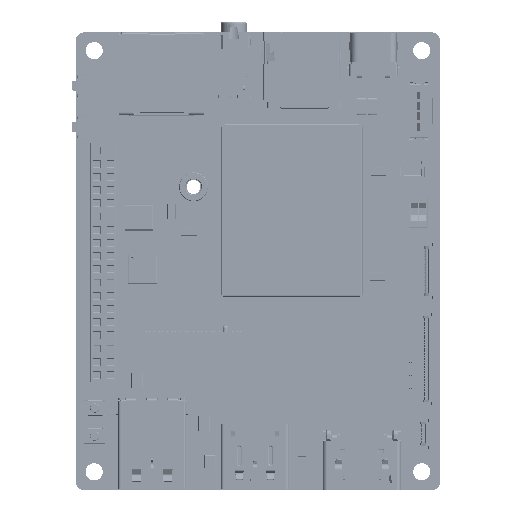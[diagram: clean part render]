
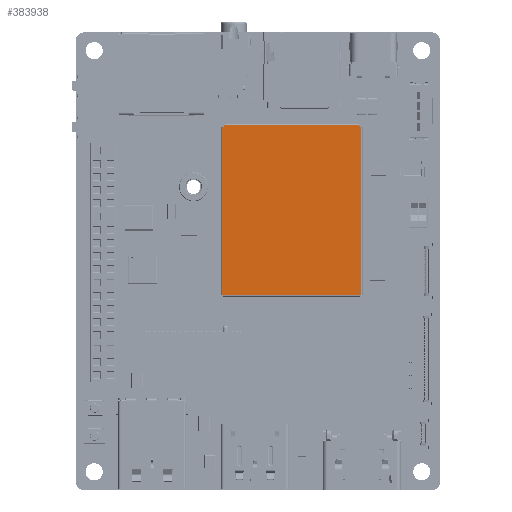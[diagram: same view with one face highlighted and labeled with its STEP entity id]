
A CAD part, top view. The second image highlights one B-rep face of the part: STEP entity #383938.
In plain terms, the highlighted planar face has unit normal (0, 0, 1).
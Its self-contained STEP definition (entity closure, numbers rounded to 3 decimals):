
#18349=FACE_OUTER_BOUND('',#38772,.T.);
#38772=EDGE_LOOP('',(#303291,#303292,#303293,#303294,#303295,#303296,#303297,
#303298));
#73673=LINE('',#601257,#118880);
#73674=LINE('',#601261,#118881);
#73675=LINE('',#601264,#118882);
#73676=LINE('',#601266,#118883);
#118880=VECTOR('',#478375,10.);
#118881=VECTOR('',#478378,10.);
#118882=VECTOR('',#478381,10.);
#118883=VECTOR('',#478382,10.);
#145314=CIRCLE('',#409176,0.25);
#145315=CIRCLE('',#409178,0.5);
#145316=CIRCLE('',#409179,0.5);
#145317=CIRCLE('',#409180,0.25);
#170608=VERTEX_POINT('',#601233);
#170609=VERTEX_POINT('',#601244);
#170610=VERTEX_POINT('',#601255);
#170611=VERTEX_POINT('',#601256);
#170612=VERTEX_POINT('',#601258);
#170613=VERTEX_POINT('',#601260);
#170614=VERTEX_POINT('',#601262);
#170615=VERTEX_POINT('',#601265);
#217930=EDGE_CURVE('',#170609,#170608,#145314,.T.);
#217932=EDGE_CURVE('',#170610,#170611,#73673,.T.);
#217933=EDGE_CURVE('',#170611,#170612,#145315,.T.);
#217934=EDGE_CURVE('',#170612,#170613,#73674,.T.);
#217935=EDGE_CURVE('',#170613,#170614,#145316,.T.);
#217936=EDGE_CURVE('',#170614,#170609,#73675,.T.);
#217937=EDGE_CURVE('',#170608,#170615,#73676,.T.);
#217938=EDGE_CURVE('',#170615,#170610,#145317,.T.);
#303291=ORIENTED_EDGE('',*,*,#217932,.T.);
#303292=ORIENTED_EDGE('',*,*,#217933,.T.);
#303293=ORIENTED_EDGE('',*,*,#217934,.T.);
#303294=ORIENTED_EDGE('',*,*,#217935,.T.);
#303295=ORIENTED_EDGE('',*,*,#217936,.T.);
#303296=ORIENTED_EDGE('',*,*,#217930,.T.);
#303297=ORIENTED_EDGE('',*,*,#217937,.T.);
#303298=ORIENTED_EDGE('',*,*,#217938,.T.);
#367327=PLANE('',#409177);
#383938=ADVANCED_FACE('',(#18349),#367327,.T.);
#409176=AXIS2_PLACEMENT_3D('',#601245,#478371,#478372);
#409177=AXIS2_PLACEMENT_3D('',#601254,#478373,#478374);
#409178=AXIS2_PLACEMENT_3D('',#601259,#478376,#478377);
#409179=AXIS2_PLACEMENT_3D('',#601263,#478379,#478380);
#409180=AXIS2_PLACEMENT_3D('',#601267,#478383,#478384);
#478371=DIRECTION('center_axis',(0.,0.,-1.));
#478372=DIRECTION('ref_axis',(0.4,0.917,0.));
#478373=DIRECTION('center_axis',(0.,0.,1.));
#478374=DIRECTION('ref_axis',(-1.,0.,0.));
#478375=DIRECTION('',(0.,1.,0.));
#478376=DIRECTION('center_axis',(0.,0.,
-1.));
#478377=DIRECTION('ref_axis',(-0.2,-0.98,0.));
#478378=DIRECTION('',(-1.,0.,0.));
#478379=DIRECTION('center_axis',(0.,0.,
-1.));
#478380=DIRECTION('ref_axis',(0.98,-0.2,0.));
#478381=DIRECTION('',(0.,-1.,0.));
#478382=DIRECTION('',(1.,0.,0.));
#478383=DIRECTION('center_axis',(0.,0.,
-1.));
#478384=DIRECTION('ref_axis',(-0.917,0.4,0.));
#601233=CARTESIAN_POINT('',(-5.323,-207.191,3.5));
#601244=CARTESIAN_POINT('',(-5.452,-207.062,3.5));
#601245=CARTESIAN_POINT('Origin',(-5.552,-207.291,3.5));
#601254=CARTESIAN_POINT('Origin',(23.864,-171.169,3.5));
#601255=CARTESIAN_POINT('',(21.199,-207.062,3.5));
#601256=CARTESIAN_POINT('',(21.199,-174.834,3.5));
#601257=CARTESIAN_POINT('',(21.199,-207.062,3.5));
#601258=CARTESIAN_POINT('',(20.809,-174.444,3.5));
#601259=CARTESIAN_POINT('Origin',(21.299,-174.344,3.5));
#601260=CARTESIAN_POINT('',(-5.062,-174.444,3.5));
#601261=CARTESIAN_POINT('',(20.809,-174.444,3.5));
#601262=CARTESIAN_POINT('',(-5.452,-174.834,3.5));
#601263=CARTESIAN_POINT('Origin',(-5.552,-174.344,3.5));
#601264=CARTESIAN_POINT('',(-5.452,-174.834,3.5));
#601265=CARTESIAN_POINT('',(21.07,-207.191,3.5));
#601266=CARTESIAN_POINT('',(-5.323,-207.191,3.5));
#601267=CARTESIAN_POINT('Origin',(21.299,-207.291,3.5));
